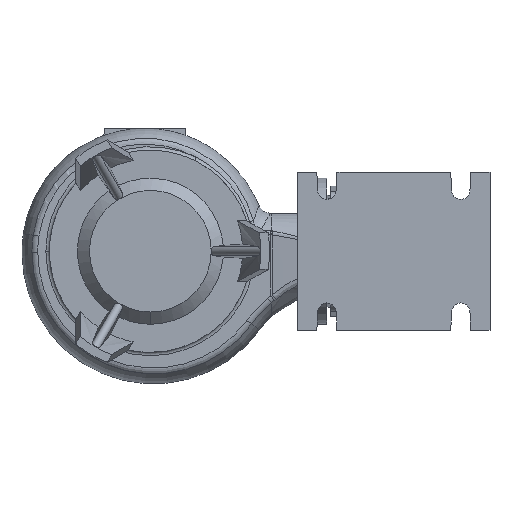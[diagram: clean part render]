
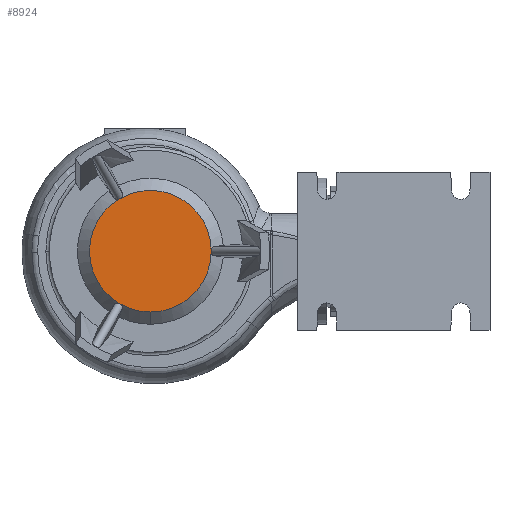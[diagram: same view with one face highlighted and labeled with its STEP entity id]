
A CAD part, front view. The second image highlights one B-rep face of the part: STEP entity #8924.
In plain terms, the highlighted planar face has unit normal (0, -1, 0).
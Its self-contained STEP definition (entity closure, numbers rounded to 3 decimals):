
#304 = VERTEX_POINT ( 'NONE', #5458 ) ;
#570 = CARTESIAN_POINT ( 'NONE',  ( 0., -18., 0. ) ) ;
#700 = PLANE ( 'NONE',  #4486 ) ;
#856 = VERTEX_POINT ( 'NONE', #13643 ) ;
#1971 = DIRECTION ( 'NONE',  ( 0., 0., -1. ) ) ;
#2675 = CIRCLE ( 'NONE', #16050, 50. ) ;
#3710 = VERTEX_POINT ( 'NONE', #15695 ) ;
#4486 = AXIS2_PLACEMENT_3D ( 'NONE', #4704, #6061, #1971 ) ;
#4704 = CARTESIAN_POINT ( 'NONE',  ( -36., -18., 0. ) ) ;
#5009 = CIRCLE ( 'NONE', #14575, 50. ) ;
#5364 = AXIS2_PLACEMENT_3D ( 'NONE', #6929, #8044, #13188 ) ;
#5458 = CARTESIAN_POINT ( 'NONE',  ( 0., -18., -50. ) ) ;
#5711 = VERTEX_POINT ( 'NONE', #12045 ) ;
#5967 = ORIENTED_EDGE ( 'NONE', *, *, #11518, .F. ) ;
#6061 = DIRECTION ( 'NONE',  ( 0., 1., 0. ) ) ;
#6641 = CIRCLE ( 'NONE', #14308, 50. ) ;
#6929 = CARTESIAN_POINT ( 'NONE',  ( 0., -18., 0. ) ) ;
#7892 = CARTESIAN_POINT ( 'NONE',  ( 0., -18., 0. ) ) ;
#8044 = DIRECTION ( 'NONE',  ( 0., 1., 0. ) ) ;
#8631 = FACE_OUTER_BOUND ( 'NONE', #11720, .T. ) ;
#8924 = ADVANCED_FACE ( 'NONE', ( #8631 ), #700, .F. ) ;
#9187 = CIRCLE ( 'NONE', #5364, 50. ) ;
#9353 = DIRECTION ( 'NONE',  ( 0., 0., -1. ) ) ;
#9617 = ORIENTED_EDGE ( 'NONE', *, *, #15269, .F. ) ;
#10326 = ORIENTED_EDGE ( 'NONE', *, *, #12765, .F. ) ;
#11482 = DIRECTION ( 'NONE',  ( 0., 1., 0. ) ) ;
#11518 = EDGE_CURVE ( 'NONE', #5711, #3710, #9187, .T. ) ;
#11720 = EDGE_LOOP ( 'NONE', ( #12342, #5967, #10326, #9617 ) ) ;
#12045 = CARTESIAN_POINT ( 'NONE',  ( -25., -18., 43.301 ) ) ;
#12342 = ORIENTED_EDGE ( 'NONE', *, *, #15481, .F. ) ;
#12765 = EDGE_CURVE ( 'NONE', #856, #5711, #2675, .T. ) ;
#13188 = DIRECTION ( 'NONE',  ( 0., 0., -1. ) ) ;
#13213 = DIRECTION ( 'NONE',  ( 0., 1., 0. ) ) ;
#13643 = CARTESIAN_POINT ( 'NONE',  ( -25., -18., -43.301 ) ) ;
#14308 = AXIS2_PLACEMENT_3D ( 'NONE', #16607, #11482, #16677 ) ;
#14575 = AXIS2_PLACEMENT_3D ( 'NONE', #7892, #13213, #9353 ) ;
#15077 = DIRECTION ( 'NONE',  ( 0., 1., 0. ) ) ;
#15269 = EDGE_CURVE ( 'NONE', #304, #856, #5009, .T. ) ;
#15481 = EDGE_CURVE ( 'NONE', #3710, #304, #6641, .T. ) ;
#15695 = CARTESIAN_POINT ( 'NONE',  ( 50., -18., 0. ) ) ;
#16050 = AXIS2_PLACEMENT_3D ( 'NONE', #570, #15077, #16112 ) ;
#16112 = DIRECTION ( 'NONE',  ( 0., 0., -1. ) ) ;
#16607 = CARTESIAN_POINT ( 'NONE',  ( 0., -18., 0. ) ) ;
#16677 = DIRECTION ( 'NONE',  ( 0., 0., -1. ) ) ;
